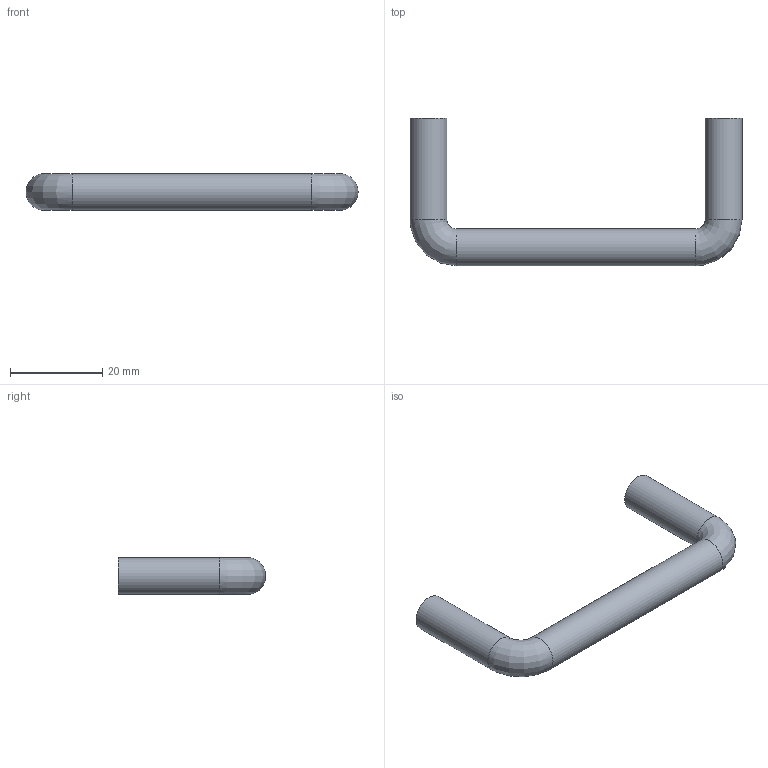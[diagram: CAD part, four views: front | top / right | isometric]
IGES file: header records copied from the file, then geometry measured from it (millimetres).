
Start section: Data from Parasolid IGES Translator 15.0.47, Copyright(c) 2006 Siemens P LM Software. All Rights Reserved.
Global section: file name: 9070605.igs; native system:  By UGS Corp.; preprocessor: XPlus GENERIC/IGES 3.0; author: Noname; organization: Noname; date: 20140122.154258; units: millimetre
Bounding box: 72 x 32 x 8 mm (x, y, z)
Surface area: 3162.9 mm2 (no closed solid volume)
Topology: 0 solids, 0 shells, 11 faces, 42 edges, 38 vertices
Faces by surface type: revolution 7, extrusion 4
